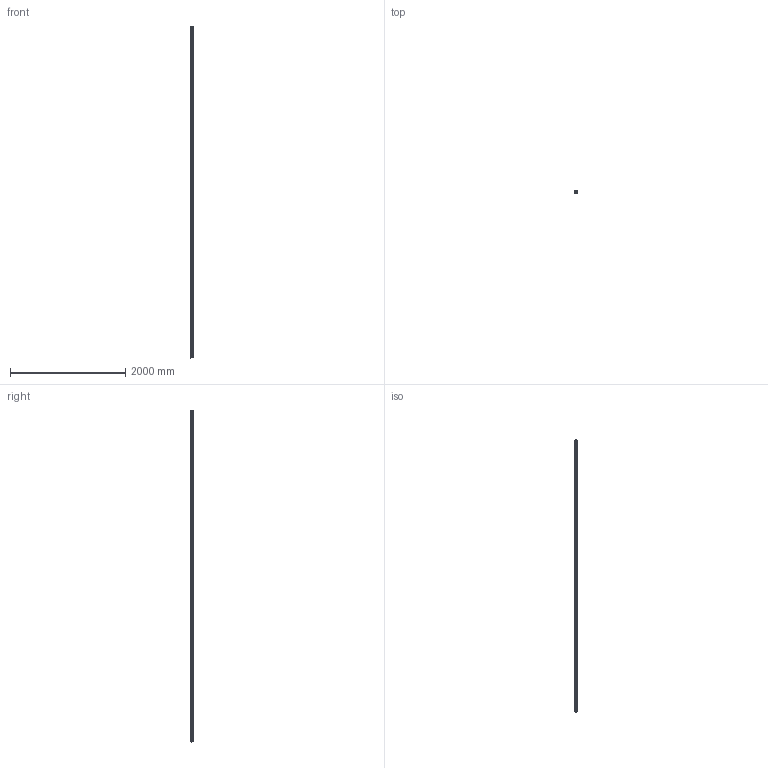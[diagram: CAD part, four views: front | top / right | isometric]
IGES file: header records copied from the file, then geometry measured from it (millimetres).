
Start section: 3D InterOp IGES (v. 2019 1.0.2), Spatial Corp. Copyright (c) 1999-2017.
Global section: file name: R1605.0_size45.igs; native system: Spatial Corp.; preprocessor: 3D InterOp GENERIC/IGES 3.0; author: Noname; organization: Noname; date: 20220629.163422; units: millimetre
Bounding box: 45 x 39.85 x 5771 mm (x, y, z)
Surface area: 1147174.3 mm2 (no closed solid volume)
Topology: 0 solids, 0 shells, 575 faces, 2344 edges, 2344 vertices
Faces by surface type: revolution 344, extrusion 231
